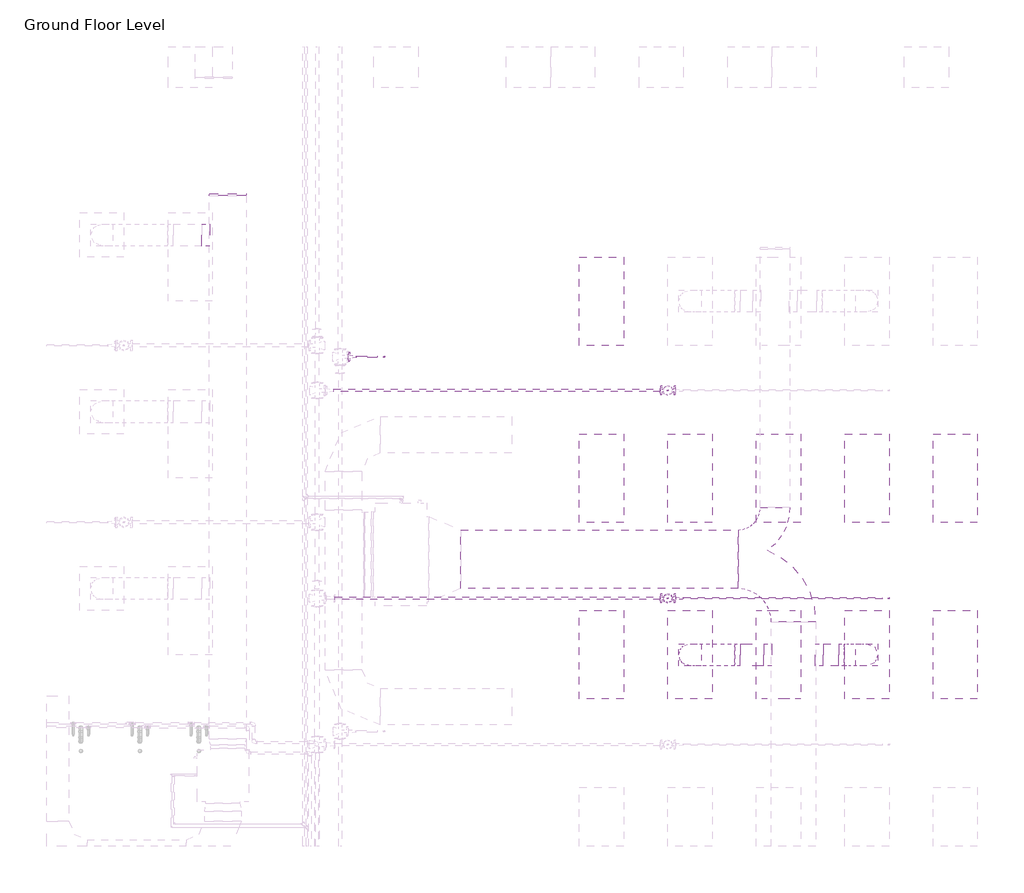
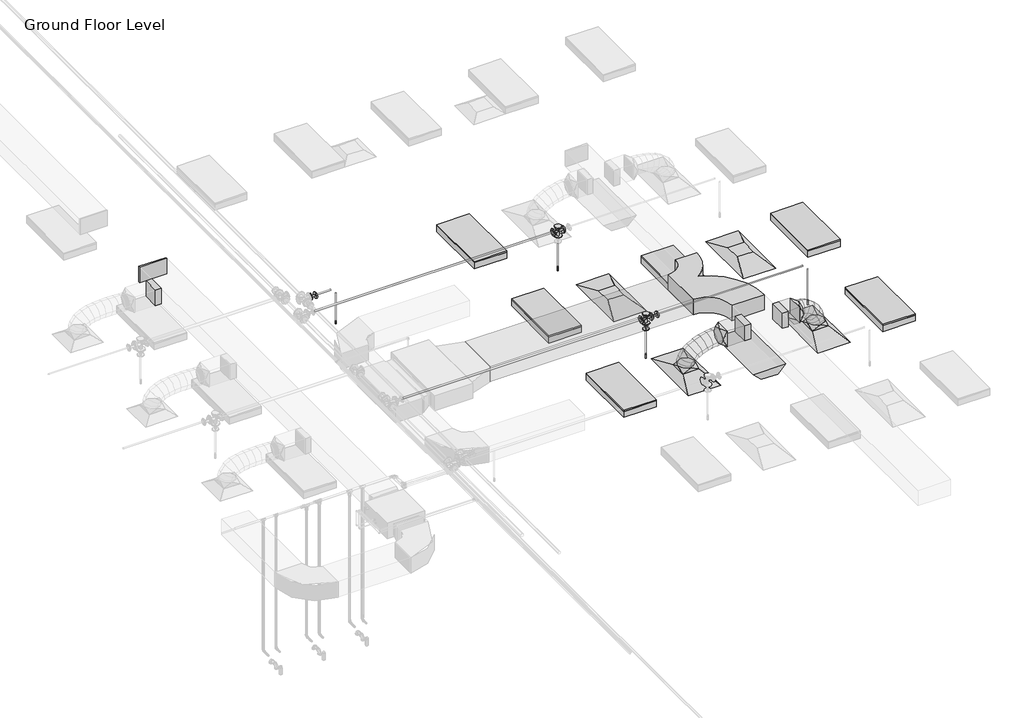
# One storey, part 27 of 74: 9 duct fittings, 8 pipe segments, 7 light fixtures, 5 duct segments, 5 pipe fittings, 4 air terminals, 4 fire suppression terminals.
"""IFC4 building model written with IfcOpenShell, lengths in millimetres."""

from ifc_helpers import new_model, si_unit, point, frame, frame_2d, origin, place, context, project, spatial, polyline, circle_curve, ellipse_curve, trimmed, segment, composite_curve, outline, extrude, transform, mapped, element, save
from ifc_brep_helpers import plane_surface, cylinder_surface, advanced_brep
from components import m_return_diffuser_1200x600_1200_x_600_face_300_x_300_d1983ef6, m_rectangular_endcap_standard_72d4d00d, m_rectangular_takeoff_standard_cb0ccb98, m_rectangular_takeoff_standard_2be5eba1, m_rectangular_wye_curved_transition_standard_4ceeb4da, m_rectangular_to_round_transition_angle_45_degree_641efff0, m_sprinkler_dry_pendent_hosted_15_mm_dry_pendent_9bda8e11, m_sprinkler_pendent_15_mm_pendent_06fcbd8e, m_emergency_recessed_lighting_fixture_600x1200_277_5b10b25d, m_troffer_light_parabolic_rectangular1_0600x1200mm_4_lamp_86473d4a, m_reducer_flanged_cs_class_150_standard_ccf252ad, m_reducer_flanged_cs_class_150_standard_83138b42, m_tee_round_base_flanged_cs_class_150_standard_7e5987a1

model = new_model("IFC4")

# Units and contexts
model_context = context("Model", 3, world=origin())
ifc_project = project(units=[si_unit("LENGTHUNIT", "METRE", prefix="MILLI")], contexts=[model_context])

# Site, building, storey
site = spatial("IfcSite", under=ifc_project)
building = spatial("IfcBuilding", under=site)
storey = spatial("IfcBuildingStorey", under=building, Name="Ground Floor Level", Elevation=900.0)

# Air terminals
placement = place(None, origin())
m_return_diffuser_1200x600_1200_x_600_face_300_x_300_shape = m_return_diffuser_1200x600_1200_x_600_face_300_x_300_d1983ef6(model_context)
element("IfcAirTerminal", 1, ObjectType="M_Return Diffuser 1200x600 : 1200 x 600 Face 300 x 300 Connection", at=placement, inside=storey, context=model_context, shape_type="MappedRepresentation", body=[
    mapped(m_return_diffuser_1200x600_1200_x_600_face_300_x_300_shape, transform((10743.0482736, -20464.7846466, 3650.0), x_axis=(0.0, 1.0, 0.0), y_axis=(-1.0, 0.0, 0.0), z_axis=(0.0, 0.0, 1.0))),
])
element("IfcAirTerminal", 2, ObjectType="M_Return Diffuser 1200x600 : 1200 x 600 Face 300 x 300 Connection", at=placement, inside=storey, context=model_context, shape_type="MappedRepresentation", body=[
    mapped(m_return_diffuser_1200x600_1200_x_600_face_300_x_300_shape, transform((13143.0482736, -20464.7846466, 3650.0), x_axis=(0.0, 1.0, 0.0), y_axis=(-1.0, 0.0, 0.0), z_axis=(0.0, 0.0, 1.0))),
])
element("IfcAirTerminal", 3, ObjectType="M_Supply Diffuser 1200x600 : 1200 x 600 Face 300 x 300 Connection", at=placement, inside=storey, context=model_context, shape_type="MappedRepresentation", body=[
    mapped(m_return_diffuser_1200x600_1200_x_600_face_300_x_300_shape, transform((10743.0482736, -22864.7846466, 3650.0), x_axis=(0.0, 1.0, 0.0), y_axis=(-1.0, 0.0, 0.0), z_axis=(0.0, 0.0, 1.0))),
])
element("IfcAirTerminal", 4, ObjectType="M_Supply Diffuser 1200x600 : 1200 x 600 Face 300 x 300 Connection", at=placement, inside=storey, context=model_context, shape_type="MappedRepresentation", body=[
    mapped(m_return_diffuser_1200x600_1200_x_600_face_300_x_300_shape, transform((13143.0482736, -22864.7846466, 3650.0), x_axis=(0.0, 1.0, 0.0), y_axis=(-1.0, 0.0, 0.0), z_axis=(0.0, 0.0, 1.0))),
])

# Duct fittings
m_rectangular_endcap_standard_shape = m_rectangular_endcap_standard_72d4d00d(model_context)
element("IfcDuctFitting", 5, ObjectType="M_Rectangular Endcap : Standard", at=placement, inside=storey, context=model_context, shape_type="MappedRepresentation", body=[
    mapped(m_rectangular_endcap_standard_shape, transform((4469.1581832, -16631.8627051, 4057.1429453), x_axis=(0.0, 0.999999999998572, -1.6899837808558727e-06), y_axis=(-1.0, 0.0, 0.0), z_axis=(0.0, 1.6899837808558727e-06, 0.999999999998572))),
])
m_rectangular_takeoff_standard_shape = m_rectangular_takeoff_standard_cb0ccb98(model_context)
element("IfcDuctFitting", 6, ObjectType="M_Rectangular Takeoff : Standard", at=placement, inside=storey, context=model_context, shape_type="MappedRepresentation", body=[
    mapped(m_rectangular_takeoff_standard_shape, transform((12447.7826463, -22864.7846466, 4150.0), x_axis=(1.0, 0.0, 0.0), y_axis=(0.0, -1.0, 0.0), z_axis=(0.0, 0.0, -1.0))),
])
element("IfcDuctFitting", 7, ObjectType="M_Rectangular Takeoff : Standard", at=placement, inside=storey, context=model_context, shape_type="MappedRepresentation", body=[
    mapped(m_rectangular_takeoff_standard_shape, transform((4219.1581832, -17164.7846466, 4057.143846), x_axis=(-1.0, 0.0, 0.0), y_axis=(0.0, 1.0, 0.0), z_axis=(0.0, 0.0, -1.0))),
])
m_rectangular_takeoff_standard_2_shape = m_rectangular_takeoff_standard_2be5eba1(model_context)
element("IfcDuctFitting", 8, ObjectType="M_Rectangular Takeoff : Standard", at=placement, inside=storey, context=model_context, shape_type="MappedRepresentation", body=[
    mapped(m_rectangular_takeoff_standard_2_shape, transform((11847.7826463, -22864.7846466, 4150.0), x_axis=(-1.0, 0.0, 0.0), y_axis=(0.0, 1.0, 0.0), z_axis=(0.0, 0.0, -1.0))),
])
m_rectangular_wye_curved_transition_standard_shape = m_rectangular_wye_curved_transition_standard_4ceeb4da(model_context)
element("IfcDuctFitting", 9, ObjectType="M_Rectangular Wye - Curved - Transition : Standard", at=placement, inside=storey, context=model_context, shape_type="MappedRepresentation", body=[
    mapped(m_rectangular_wye_curved_transition_standard_shape, transform((12022.7826463, -21566.5689179, 4150.0003003), x_axis=(0.0, 1.0, 0.0), y_axis=(-0.9999999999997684, 0.0, 6.806625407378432e-07), z_axis=(6.806625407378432e-07, 0.0, 0.9999999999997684))),
])
m_rectangular_to_round_transition_angle_45_degree_shape = m_rectangular_to_round_transition_angle_45_degree_641efff0(model_context)
element("IfcDuctFitting", 10, ObjectType="M_Rectangular to Round Transition - Angle : 45 Degree", at=placement, inside=storey, context=model_context, shape_type="MappedRepresentation", body=[
    mapped(m_rectangular_to_round_transition_angle_45_degree_shape, transform((10743.0482736, -22864.7846466, 3751.6), x_axis=(0.0, 0.0, 1.0), y_axis=(-1.0, 0.0, 0.0), z_axis=(0.0, -1.0, 0.0))),
])
element("IfcDuctFitting", 11, ObjectType="M_Rectangular to Round Transition - Angle : 45 Degree", at=placement, inside=storey, context=model_context, shape_type="MappedRepresentation", body=[
    mapped(m_rectangular_to_round_transition_angle_45_degree_shape, transform((11424.4842049, -22864.7846466, 4150.0), x_axis=(-1.0, 0.0, 0.0), y_axis=(0.0, -1.0, 0.0), z_axis=(0.0, 0.0, 1.0))),
])
element("IfcDuctFitting", 12, ObjectType="M_Rectangular to Round Transition - Angle : 45 Degree", at=placement, inside=storey, context=model_context, shape_type="MappedRepresentation", body=[
    mapped(m_rectangular_to_round_transition_angle_45_degree_shape, transform((13143.0482736, -22864.7846466, 3751.6), x_axis=(0.0, 0.0, 1.0), y_axis=(-1.0, 0.0, 0.0), z_axis=(0.0, -1.0, 0.0))),
])
element("IfcDuctFitting", 13, ObjectType="M_Rectangular to Round Transition - Angle : 45 Degree", at=placement, inside=storey, context=model_context, shape_type="MappedRepresentation", body=[
    mapped(m_rectangular_to_round_transition_angle_45_degree_shape, transform((12761.6125477, -22864.7846466, 4150.0), x_axis=(1.0, 0.0, 0.0), y_axis=(0.0, 1.0, 0.0), z_axis=(0.0, 0.0, 1.0))),
])

# Duct segments
element("IfcDuctSegment", 14, ObjectType="Flex - Round", at=placement, inside=storey, context=model_context, shape_type="AdvancedBrep", body=[
    advanced_brep(
    [(10893.0482736, -22864.7846466, 3826.6), (10743.0482736, -23014.7846466, 3826.6), (10593.0482736, -22864.7846466, 3826.6), (10743.0482736, -22714.7846466, 3826.6), (10893.0482736, -22864.7846466, 3832.4838104), (10743.0482736, -23014.7846466, 3857.3049615), (10593.0482736, -22864.7846466, 3882.1261126), (10743.0482736, -22714.7846466, 3857.3049615), (10895.1777586, -22864.7846466, 3838.7421096), (10759.7096782, -23014.7846466, 3906.2708192), (10624.2415979, -22864.7846466, 3973.7995287), (10759.7096782, -22714.7846466, 3906.2708192), (10917.1997864, -22864.7846466, 3871.1472855), (10805.5876959, -23014.7846466, 3973.7798261), (10693.9756053, -22864.7846466, 4076.4123668), (10805.5876959, -22714.7846466, 3973.7798261), (10957.142511, -22864.7846466, 3903.4915826), (10874.5230324, -23014.7846466, 4029.6013814), (10791.9035539, -22864.7846466, 4155.7111802), (10874.5230324, -22714.7846466, 4029.6013814), (11020.0646936, -22864.7846466, 3936.1928758), (10960.3563938, -23014.7846466, 4074.2098454), (10900.6480941, -22864.7846466, 4212.226815), (10960.3563938, -22714.7846466, 4074.2098454), (11098.9170855, -22864.7846466, 3963.8479616), (11056.9284859, -23014.7846466, 4108.0795788), (11014.9398863, -22864.7846466, 4252.311196), (11056.9284859, -22714.7846466, 4108.0795788), (11185.4890682, -22864.7846466, 3984.0509494), (11158.0800145, -23014.7846466, 4131.684942), (11130.6709609, -22864.7846466, 4279.3189347), (11158.0800145, -22714.7846466, 4131.684942), (11271.9732516, -22864.7846466, 3996.0504424), (11257.6516856, -23014.7846466, 4145.5002956), (11243.3301196, -22864.7846466, 4294.9501488), (11257.6516856, -22714.7846466, 4145.5002956), (11346.1345531, -22864.7846466, 4000.0), (11342.1431577, -23014.7846466, 4150.0), (11338.1517622, -22864.7846466, 4300.0), (11342.1431577, -22714.7846466, 4150.0), (11349.4842049, -22864.7846466, 4000.0), (11349.4842049, -22714.7846466, 4150.0), (11349.4842049, -22864.7846466, 4300.0), (11349.4842049, -23014.7846466, 4150.0)],
    [
        (0, 1, circle_curve(frame((10743.0482736, -22864.7846466, 3826.6), z_axis=(0.0, 0.0, -1.0), x_axis=(1.0, 0.0, 0.0)), 150.0)),
        (1, 2, circle_curve(frame((10743.0482736, -22864.7846466, 3826.6), z_axis=(0.0, 0.0, -1.0), x_axis=(1.0, 0.0, 0.0)), 150.0)),
        (2, 3, circle_curve(frame((10743.0482736, -22864.7846466, 3826.6), z_axis=(0.0, 0.0, -1.0), x_axis=(1.0, 0.0, 0.0)), 150.0)),
        (3, 0, circle_curve(frame((10743.0482736, -22864.7846466, 3826.6), z_axis=(0.0, 0.0, -1.0), x_axis=(1.0, 0.0, 0.0)), 150.0)),
        (0, 4),
        (4, 5, ellipse_curve(frame((10743.0482736, -22864.7846466, 3857.3049615), z_axis=(-0.1632543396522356, 0.0, -0.9865840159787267), x_axis=(0.9865840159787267, 0.0, -0.16325433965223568)), 152.039763, 150.0)),
        (5, 1),
        (5, 6, ellipse_curve(frame((10743.0482736, -22864.7846466, 3857.3049615), z_axis=(-0.1632543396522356, 0.0, -0.9865840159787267), x_axis=(0.9865840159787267, 0.0, -0.16325433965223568)), 152.039763, 150.0)),
        (6, 2),
        (6, 7, ellipse_curve(frame((10743.0482736, -22864.7846466, 3857.3049615), z_axis=(-0.1632543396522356, 0.0, -0.9865840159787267), x_axis=(0.9865840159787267, 0.0, -0.16325433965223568)), 152.039763, 150.0)),
        (7, 3),
        (7, 4, ellipse_curve(frame((10743.0482736, -22864.7846466, 3857.3049615), z_axis=(-0.1632543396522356, 0.0, -0.9865840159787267), x_axis=(0.9865840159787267, 0.0, -0.16325433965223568)), 152.039763, 150.0)),
        (4, 8),
        (8, 9, ellipse_curve(frame((10759.7096782, -22864.7846466, 3906.2708192), z_axis=(-0.4461280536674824, 0.0, -0.8949691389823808), x_axis=(0.8949691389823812, 0.0, -0.44612805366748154)), 151.366203, 150.0)),
        (9, 5),
        (9, 10, ellipse_curve(frame((10759.7096782, -22864.7846466, 3906.2708192), z_axis=(-0.4461280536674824, 0.0, -0.8949691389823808), x_axis=(0.8949691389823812, 0.0, -0.44612805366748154)), 151.366203, 150.0)),
        (10, 6),
        (10, 11, ellipse_curve(frame((10759.7096782, -22864.7846466, 3906.2708192), z_axis=(-0.4461280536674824, 0.0, -0.8949691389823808), x_axis=(0.8949691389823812, 0.0, -0.44612805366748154)), 151.366203, 150.0)),
        (11, 7),
        (11, 8, ellipse_curve(frame((10759.7096782, -22864.7846466, 3906.2708192), z_axis=(-0.4461280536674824, 0.0, -0.8949691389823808), x_axis=(0.8949691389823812, 0.0, -0.44612805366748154)), 151.366203, 150.0)),
        (8, 12),
        (12, 13, ellipse_curve(frame((10805.5876959, -22864.7846466, 3973.7798261), z_axis=(-0.6768758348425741, 0.0, -0.7360972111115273), x_axis=(0.7360972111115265, 0.0, -0.6768758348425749)), 151.6268352, 150.0)),
        (13, 9),
        (13, 14, ellipse_curve(frame((10805.5876959, -22864.7846466, 3973.7798261), z_axis=(-0.6768758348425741, 0.0, -0.7360972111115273), x_axis=(0.7360972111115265, 0.0, -0.6768758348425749)), 151.6268352, 150.0)),
        (14, 10),
        (14, 15, ellipse_curve(frame((10805.5876959, -22864.7846466, 3973.7798261), z_axis=(-0.6768758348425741, 0.0, -0.7360972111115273), x_axis=(0.7360972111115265, 0.0, -0.6768758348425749)), 151.6268352, 150.0)),
        (15, 11),
        (15, 12, ellipse_curve(frame((10805.5876959, -22864.7846466, 3973.7798261), z_axis=(-0.6768758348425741, 0.0, -0.7360972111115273), x_axis=(0.7360972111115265, 0.0, -0.6768758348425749)), 151.6268352, 150.0)),
        (12, 16),
        (16, 17, ellipse_curve(frame((10874.5230324, -22864.7846466, 4029.6013814), z_axis=(-0.8364738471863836, 0.0, -0.5480068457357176), x_axis=(0.5480068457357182, 0.0, -0.8364738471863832)), 150.7635884, 150.0)),
        (17, 13),
        (17, 18, ellipse_curve(frame((10874.5230324, -22864.7846466, 4029.6013814), z_axis=(-0.8364738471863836, 0.0, -0.5480068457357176), x_axis=(0.5480068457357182, 0.0, -0.8364738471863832)), 150.7635884, 150.0)),
        (18, 14),
        (18, 19, ellipse_curve(frame((10874.5230324, -22864.7846466, 4029.6013814), z_axis=(-0.8364738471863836, 0.0, -0.5480068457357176), x_axis=(0.5480068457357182, 0.0, -0.8364738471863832)), 150.7635884, 150.0)),
        (19, 15),
        (19, 16, ellipse_curve(frame((10874.5230324, -22864.7846466, 4029.6013814), z_axis=(-0.8364738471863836, 0.0, -0.5480068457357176), x_axis=(0.5480068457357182, 0.0, -0.8364738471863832)), 150.7635884, 150.0)),
        (16, 20),
        (20, 21, ellipse_curve(frame((10960.3563938, -22864.7846466, 4074.2098454), z_axis=(-0.9177957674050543, 0.0, -0.3970528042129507), x_axis=(0.3970528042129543, 0.0, -0.9177957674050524)), 150.3787384, 150.0)),
        (21, 17),
        (21, 22, ellipse_curve(frame((10960.3563938, -22864.7846466, 4074.2098454), z_axis=(-0.9177957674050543, 0.0, -0.3970528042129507), x_axis=(0.3970528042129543, 0.0, -0.9177957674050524)), 150.3787384, 150.0)),
        (22, 18),
        (22, 23, ellipse_curve(frame((10960.3563938, -22864.7846466, 4074.2098454), z_axis=(-0.9177957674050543, 0.0, -0.3970528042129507), x_axis=(0.3970528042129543, 0.0, -0.9177957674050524)), 150.3787384, 150.0)),
        (23, 19),
        (23, 20, ellipse_curve(frame((10960.3563938, -22864.7846466, 4074.2098454), z_axis=(-0.9177957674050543, 0.0, -0.3970528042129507), x_axis=(0.3970528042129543, 0.0, -0.9177957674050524)), 150.3787384, 150.0)),
        (20, 24),
        (24, 25, ellipse_curve(frame((11056.9284859, -22864.7846466, 4108.0795788), z_axis=(-0.9601411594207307, 0.0, -0.27951557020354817), x_axis=(0.2795155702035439, 0.0, -0.9601411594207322)), 150.2191795, 150.0)),
        (25, 21),
        (25, 26, ellipse_curve(frame((11056.9284859, -22864.7846466, 4108.0795788), z_axis=(-0.9601411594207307, 0.0, -0.27951557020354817), x_axis=(0.2795155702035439, 0.0, -0.9601411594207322)), 150.2191795, 150.0)),
        (26, 22),
        (26, 27, ellipse_curve(frame((11056.9284859, -22864.7846466, 4108.0795788), z_axis=(-0.9601411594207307, 0.0, -0.27951557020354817), x_axis=(0.2795155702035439, 0.0, -0.9601411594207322)), 150.2191795, 150.0)),
        (27, 23),
        (27, 24, ellipse_curve(frame((11056.9284859, -22864.7846466, 4108.0795788), z_axis=(-0.9601411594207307, 0.0, -0.27951557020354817), x_axis=(0.2795155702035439, 0.0, -0.9601411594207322)), 150.2191795, 150.0)),
        (24, 28),
        (28, 29, ellipse_curve(frame((11158.0800145, -22864.7846466, 4131.684942), z_axis=(-0.9831991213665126, 0.0, -0.1825362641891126), x_axis=(0.18253626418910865, 0.0, -0.9831991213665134)), 150.1567581, 150.0)),
        (29, 25),
        (29, 30, ellipse_curve(frame((11158.0800145, -22864.7846466, 4131.684942), z_axis=(-0.9831991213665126, 0.0, -0.1825362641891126), x_axis=(0.18253626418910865, 0.0, -0.9831991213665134)), 150.1567581, 150.0)),
        (30, 26),
        (30, 31, ellipse_curve(frame((11158.0800145, -22864.7846466, 4131.684942), z_axis=(-0.9831991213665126, 0.0, -0.1825362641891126), x_axis=(0.18253626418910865, 0.0, -0.9831991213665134)), 150.1567581, 150.0)),
        (31, 27),
        (31, 28, ellipse_curve(frame((11158.0800145, -22864.7846466, 4131.684942), z_axis=(-0.9831991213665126, 0.0, -0.1825362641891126), x_axis=(0.18253626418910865, 0.0, -0.9831991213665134)), 150.1567581, 150.0)),
        (28, 32),
        (32, 33, ellipse_curve(frame((11257.6516856, -22864.7846466, 4145.5002956), z_axis=(-0.9954398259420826, 0.0, -0.09539157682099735), x_axis=(0.09539157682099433, 0.0, -0.9954398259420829)), 150.1344926, 150.0)),
        (33, 29),
        (33, 34, ellipse_curve(frame((11257.6516856, -22864.7846466, 4145.5002956), z_axis=(-0.9954398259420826, 0.0, -0.09539157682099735), x_axis=(0.09539157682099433, 0.0, -0.9954398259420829)), 150.1344926, 150.0)),
        (34, 30),
        (34, 35, ellipse_curve(frame((11257.6516856, -22864.7846466, 4145.5002956), z_axis=(-0.9954398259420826, 0.0, -0.09539157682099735), x_axis=(0.09539157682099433, 0.0, -0.9954398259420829)), 150.1344926, 150.0)),
        (35, 31),
        (35, 32, ellipse_curve(frame((11257.6516856, -22864.7846466, 4145.5002956), z_axis=(-0.9954398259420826, 0.0, -0.09539157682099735), x_axis=(0.09539157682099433, 0.0, -0.9954398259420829)), 150.1344926, 150.0)),
        (32, 36),
        (36, 37, ellipse_curve(frame((11342.1431577, -22864.7846466, 4150.0), z_axis=(-0.9996461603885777, 0.0, -0.02659988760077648), x_axis=(0.026599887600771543, 0.0, -0.9996461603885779)), 150.0530947, 150.0)),
        (37, 33),
        (37, 38, ellipse_curve(frame((11342.1431577, -22864.7846466, 4150.0), z_axis=(-0.9996461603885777, 0.0, -0.02659988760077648), x_axis=(0.026599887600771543, 0.0, -0.9996461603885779)), 150.0530947, 150.0)),
        (38, 34),
        (38, 39, ellipse_curve(frame((11342.1431577, -22864.7846466, 4150.0), z_axis=(-0.9996461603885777, 0.0, -0.02659988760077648), x_axis=(0.026599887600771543, 0.0, -0.9996461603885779)), 150.0530947, 150.0)),
        (39, 35),
        (39, 36, ellipse_curve(frame((11342.1431577, -22864.7846466, 4150.0), z_axis=(-0.9996461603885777, 0.0, -0.02659988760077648), x_axis=(0.026599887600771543, 0.0, -0.9996461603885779)), 150.0530947, 150.0)),
        (40, 41, circle_curve(frame((11349.4842049, -22864.7846466, 4150.0), z_axis=(1.0, 0.0, 0.0), x_axis=(0.0, 0.0, -1.0)), 150.0)),
        (41, 42, circle_curve(frame((11349.4842049, -22864.7846466, 4150.0), z_axis=(1.0, 0.0, 0.0), x_axis=(0.0, 0.0, -1.0)), 150.0)),
        (42, 43, circle_curve(frame((11349.4842049, -22864.7846466, 4150.0), z_axis=(1.0, 0.0, 0.0), x_axis=(0.0, 0.0, -1.0)), 150.0)),
        (43, 40, circle_curve(frame((11349.4842049, -22864.7846466, 4150.0), z_axis=(1.0, 0.0, 0.0), x_axis=(0.0, 0.0, -1.0)), 150.0)),
        (36, 40),
        (43, 37),
        (42, 38),
        (41, 39),
    ],
    [
        plane_surface(frame((10743.0482736, -23014.7846466, 3826.6), z_axis=(0.0, 0.0, -1.0), x_axis=(1.0, 0.0, 0.0))),
        cylinder_surface(frame((10743.0482736, -22864.7846466, 3826.6), z_axis=(0.0, 0.0, -1.0), x_axis=(1.0, 0.0, 0.0)), 150.0),
        cylinder_surface(frame((10743.0482736, -22864.7846466, 3857.3049615), z_axis=(-0.32212824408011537, 0.0, -0.946696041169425), x_axis=(0.946696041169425, 0.0, -0.32212824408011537)), 150.0),
        cylinder_surface(frame((10759.7096782, -22864.7846466, 3906.2708192), z_axis=(-0.5620745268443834, 0.0, -0.827086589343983), x_axis=(0.827086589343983, 0.0, -0.5620745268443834)), 150.0),
        cylinder_surface(frame((10805.5876959, -22864.7846466, 3973.7798261), z_axis=(-0.7771524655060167, 0.0, -0.6293123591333), x_axis=(0.6293123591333, 0.0, -0.7771524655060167)), 150.0),
        cylinder_surface(frame((10874.5230324, -22864.7846466, 4029.6013814), z_axis=(-0.8873220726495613, 0.0, -0.4611502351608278), x_axis=(0.4611502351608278, 0.0, -0.8873220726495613)), 150.0),
        cylinder_surface(frame((10960.3563938, -22864.7846466, 4074.2098454), z_axis=(-0.9436464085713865, 0.0, -0.33095536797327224), x_axis=(0.33095536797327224, 0.0, -0.9436464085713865)), 150.0),
        cylinder_surface(frame((11056.9284859, -22864.7846466, 4108.0795788), z_axis=(-0.9738340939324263, 0.0, -0.22726010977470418), x_axis=(0.22726010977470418, 0.0, -0.9738340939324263)), 150.0),
        cylinder_surface(frame((11158.0800145, -22864.7846466, 4131.684942), z_axis=(-0.9905113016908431, 0.0, -0.13743129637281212), x_axis=(0.13743129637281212, 0.0, -0.9905113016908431)), 150.0),
        cylinder_surface(frame((11257.6516856, -22864.7846466, 4145.5002956), z_axis=(-0.9985848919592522, 0.0, -0.05318095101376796), x_axis=(0.05318095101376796, 0.0, -0.9985848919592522)), 150.0),
        plane_surface(frame((11349.4842049, -22864.7846466, 4000.0), z_axis=(1.0, 0.0, 0.0), x_axis=(0.0, 1.0, 0.0))),
        cylinder_surface(frame((11342.1431577, -22864.7846466, 4150.0), z_axis=(-1.0, 0.0, 0.0), x_axis=(0.0, 0.0, -1.0)), 150.0),
    ],
    [
        (0, [[1, 2, 3, 4]]),
        (1, [[-1, 5, 6, 7]]),
        (1, [[-2, -7, 8, 9]]),
        (1, [[-3, -9, 10, 11]]),
        (1, [[-4, -11, 12, -5]]),
        (2, [[-6, 13, 14, 15]]),
        (2, [[-8, -15, 16, 17]]),
        (2, [[-10, -17, 18, 19]]),
        (2, [[-12, -19, 20, -13]]),
        (3, [[-14, 21, 22, 23]]),
        (3, [[-16, -23, 24, 25]]),
        (3, [[-18, -25, 26, 27]]),
        (3, [[-20, -27, 28, -21]]),
        (4, [[-22, 29, 30, 31]]),
        (4, [[-24, -31, 32, 33]]),
        (4, [[-26, -33, 34, 35]]),
        (4, [[-28, -35, 36, -29]]),
        (5, [[-30, 37, 38, 39]]),
        (5, [[-32, -39, 40, 41]]),
        (5, [[-34, -41, 42, 43]]),
        (5, [[-36, -43, 44, -37]]),
        (6, [[-38, 45, 46, 47]]),
        (6, [[-40, -47, 48, 49]]),
        (6, [[-42, -49, 50, 51]]),
        (6, [[-44, -51, 52, -45]]),
        (7, [[-46, 53, 54, 55]]),
        (7, [[-48, -55, 56, 57]]),
        (7, [[-50, -57, 58, 59]]),
        (7, [[-52, -59, 60, -53]]),
        (8, [[-54, 61, 62, 63]]),
        (8, [[-56, -63, 64, 65]]),
        (8, [[-58, -65, 66, 67]]),
        (8, [[-60, -67, 68, -61]]),
        (9, [[-62, 69, 70, 71]]),
        (9, [[-64, -71, 72, 73]]),
        (9, [[-66, -73, 74, 75]]),
        (9, [[-68, -75, 76, -69]]),
        (10, [[77, 78, 79, 80]]),
        (11, [[-70, 81, -80, 82]]),
        (11, [[-72, -82, -79, 83]]),
        (11, [[-74, -83, -78, 84]]),
        (11, [[-76, -84, -77, -81]]),
    ],
),
])
element("IfcDuctSegment", 15, ObjectType="Flex - Round", at=placement, inside=storey, context=model_context, shape_type="AdvancedBrep", body=[
    advanced_brep(
    [(13293.0482736, -22864.7846466, 3826.6), (13143.0482736, -23014.7846466, 3826.6), (12993.0482736, -22864.7846466, 3826.6), (13143.0482736, -22714.7846466, 3826.6), (13293.0482736, -22864.7846466, 3876.0801412), (13143.0482736, -23014.7846466, 3855.2056612), (12993.0482736, -22864.7846466, 3834.3311813), (13143.0482736, -22714.7846466, 3855.2056612), (13265.1827485, -22864.7846466, 3974.2593667), (13125.4356823, -23014.7846466, 3917.2604967), (12985.6886161, -22864.7846466, 3860.2616267), (13125.4356823, -22714.7846466, 3917.2604967), (13200.641408, -22864.7846466, 4092.9658971), (13077.9530706, -23014.7846466, 4004.5920588), (12955.2647333, -22864.7846466, 3916.2182204), (13077.9530706, -22714.7846466, 4004.5920588), (13104.7566275, -22864.7846466, 4195.7964222), (13008.633182, -23014.7846466, 4078.9333725), (12912.5097364, -22864.7846466, 3962.0703229), (13008.633182, -22714.7846466, 4078.9333725), (12990.1102871, -22864.7846466, 4267.0876349), (12925.5087598, -23014.7846466, 4130.6231242), (12860.9072326, -22864.7846466, 3994.1586134), (12925.5087598, -22714.7846466, 4130.6231242), (12893.3776503, -22864.7846466, 4300.0), (12868.5582402, -23014.7846466, 4150.0), (12843.7388301, -22864.7846466, 4000.0), (12868.5582402, -22714.7846466, 4150.0), (12836.6125477, -22864.7846466, 4300.0), (12836.6125477, -23014.7846466, 4150.0), (12836.6125477, -22864.7846466, 4000.0), (12836.6125477, -22714.7846466, 4150.0)],
    [
        (0, 1, circle_curve(frame((13143.0482736, -22864.7846466, 3826.6), z_axis=(0.0, 0.0, -1.0), x_axis=(1.0, 0.0, 0.0)), 150.0)),
        (1, 2, circle_curve(frame((13143.0482736, -22864.7846466, 3826.6), z_axis=(0.0, 0.0, -1.0), x_axis=(1.0, 0.0, 0.0)), 150.0)),
        (2, 3, circle_curve(frame((13143.0482736, -22864.7846466, 3826.6), z_axis=(0.0, 0.0, -1.0), x_axis=(1.0, 0.0, 0.0)), 150.0)),
        (3, 0, circle_curve(frame((13143.0482736, -22864.7846466, 3826.6), z_axis=(0.0, 0.0, -1.0), x_axis=(1.0, 0.0, 0.0)), 150.0)),
        (0, 4),
        (4, 5, ellipse_curve(frame((13143.0482736, -22864.7846466, 3855.2056612), z_axis=(0.13783491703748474, 0.0, -0.9904552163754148), x_axis=(-0.9904552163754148, 0.0, -0.13783491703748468)), 151.4455147, 150.0)),
        (5, 1),
        (5, 6, ellipse_curve(frame((13143.0482736, -22864.7846466, 3855.2056612), z_axis=(0.13783491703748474, 0.0, -0.9904552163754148), x_axis=(-0.9904552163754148, 0.0, -0.13783491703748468)), 151.4455147, 150.0)),
        (6, 2),
        (6, 7, ellipse_curve(frame((13143.0482736, -22864.7846466, 3855.2056612), z_axis=(0.13783491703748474, 0.0, -0.9904552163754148), x_axis=(-0.9904552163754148, 0.0, -0.13783491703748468)), 151.4455147, 150.0)),
        (7, 3),
        (7, 4, ellipse_curve(frame((13143.0482736, -22864.7846466, 3855.2056612), z_axis=(0.13783491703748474, 0.0, -0.9904552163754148), x_axis=(-0.9904552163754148, 0.0, -0.13783491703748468)), 151.4455147, 150.0)),
        (4, 8),
        (8, 9, ellipse_curve(frame((13125.4356823, -22864.7846466, 3917.2604967), z_axis=(0.3776655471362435, 0.0, -0.9259420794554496), x_axis=(-0.9259420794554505, 0.0, -0.3776655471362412)), 150.9241985, 150.0)),
        (9, 5),
        (9, 10, ellipse_curve(frame((13125.4356823, -22864.7846466, 3917.2604967), z_axis=(0.3776655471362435, 0.0, -0.9259420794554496), x_axis=(-0.9259420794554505, 0.0, -0.3776655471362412)), 150.9241985, 150.0)),
        (10, 6),
        (10, 11, ellipse_curve(frame((13125.4356823, -22864.7846466, 3917.2604967), z_axis=(0.3776655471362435, 0.0, -0.9259420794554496), x_axis=(-0.9259420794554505, 0.0, -0.3776655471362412)), 150.9241985, 150.0)),
        (11, 7),
        (11, 8, ellipse_curve(frame((13125.4356823, -22864.7846466, 3917.2604967), z_axis=(0.3776655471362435, 0.0, -0.9259420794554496), x_axis=(-0.9259420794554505, 0.0, -0.3776655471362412)), 150.9241985, 150.0)),
        (8, 12),
        (12, 13, ellipse_curve(frame((13077.9530706, -22864.7846466, 4004.5920588), z_axis=(0.5844712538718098, 0.0, -0.8114144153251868), x_axis=(-0.8114144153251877, 0.0, -0.5844712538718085)), 151.2030536, 150.0)),
        (13, 9),
        (13, 14, ellipse_curve(frame((13077.9530706, -22864.7846466, 4004.5920588), z_axis=(0.5844712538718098, 0.0, -0.8114144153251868), x_axis=(-0.8114144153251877, 0.0, -0.5844712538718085)), 151.2030536, 150.0)),
        (14, 10),
        (14, 15, ellipse_curve(frame((13077.9530706, -22864.7846466, 4004.5920588), z_axis=(0.5844712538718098, 0.0, -0.8114144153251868), x_axis=(-0.8114144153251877, 0.0, -0.5844712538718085)), 151.2030536, 150.0)),
        (15, 11),
        (15, 12, ellipse_curve(frame((13077.9530706, -22864.7846466, 4004.5920588), z_axis=(0.5844712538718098, 0.0, -0.8114144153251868), x_axis=(-0.8114144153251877, 0.0, -0.5844712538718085)), 151.2030536, 150.0)),
        (12, 16),
        (16, 17, ellipse_curve(frame((13008.633182, -22864.7846466, 4078.9333725), z_axis=(0.7723086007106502, 0.0, -0.6352475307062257), x_axis=(-0.6352475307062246, 0.0, -0.7723086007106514)), 151.3165198, 150.0)),
        (17, 13),
        (17, 18, ellipse_curve(frame((13008.633182, -22864.7846466, 4078.9333725), z_axis=(0.7723086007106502, 0.0, -0.6352475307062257), x_axis=(-0.6352475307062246, 0.0, -0.7723086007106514)), 151.3165198, 150.0)),
        (18, 14),
        (18, 19, ellipse_curve(frame((13008.633182, -22864.7846466, 4078.9333725), z_axis=(0.7723086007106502, 0.0, -0.6352475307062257), x_axis=(-0.6352475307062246, 0.0, -0.7723086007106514)), 151.3165198, 150.0)),
        (19, 15),
        (19, 16, ellipse_curve(frame((13008.633182, -22864.7846466, 4078.9333725), z_axis=(0.7723086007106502, 0.0, -0.6352475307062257), x_axis=(-0.6352475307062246, 0.0, -0.7723086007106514)), 151.3165198, 150.0)),
        (16, 20),
        (20, 21, ellipse_curve(frame((12925.5087598, -22864.7846466, 4130.6231242), z_axis=(0.9038391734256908, 0.0, -0.4278723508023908), x_axis=(-0.4278723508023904, 0.0, -0.903839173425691)), 150.983178, 150.0)),
        (21, 17),
        (21, 22, ellipse_curve(frame((12925.5087598, -22864.7846466, 4130.6231242), z_axis=(0.9038391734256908, 0.0, -0.4278723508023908), x_axis=(-0.4278723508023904, 0.0, -0.903839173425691)), 150.983178, 150.0)),
        (22, 18),
        (22, 23, ellipse_curve(frame((12925.5087598, -22864.7846466, 4130.6231242), z_axis=(0.9038391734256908, 0.0, -0.4278723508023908), x_axis=(-0.4278723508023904, 0.0, -0.903839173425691)), 150.983178, 150.0)),
        (23, 19),
        (23, 20, ellipse_curve(frame((12925.5087598, -22864.7846466, 4130.6231242), z_axis=(0.9038391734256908, 0.0, -0.4278723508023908), x_axis=(-0.4278723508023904, 0.0, -0.903839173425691)), 150.983178, 150.0)),
        (20, 24),
        (24, 25, ellipse_curve(frame((12868.5582402, -22864.7846466, 4150.0), z_axis=(0.9865858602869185, 0.0, -0.16324319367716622), x_axis=(-0.16324319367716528, 0.0, -0.9865858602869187)), 152.0394788, 150.0)),
        (25, 21),
        (25, 26, ellipse_curve(frame((12868.5582402, -22864.7846466, 4150.0), z_axis=(0.9865858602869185, 0.0, -0.16324319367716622), x_axis=(-0.16324319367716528, 0.0, -0.9865858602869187)), 152.0394788, 150.0)),
        (26, 22),
        (26, 27, ellipse_curve(frame((12868.5582402, -22864.7846466, 4150.0), z_axis=(0.9865858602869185, 0.0, -0.16324319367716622), x_axis=(-0.16324319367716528, 0.0, -0.9865858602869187)), 152.0394788, 150.0)),
        (27, 23),
        (27, 24, ellipse_curve(frame((12868.5582402, -22864.7846466, 4150.0), z_axis=(0.9865858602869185, 0.0, -0.16324319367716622), x_axis=(-0.16324319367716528, 0.0, -0.9865858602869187)), 152.0394788, 150.0)),
        (24, 28),
        (28, 29, circle_curve(frame((12836.6125477, -22864.7846466, 4150.0), z_axis=(1.0, 0.0, 0.0), x_axis=(0.0, 0.0, 1.0)), 150.0)),
        (29, 25),
        (29, 30, circle_curve(frame((12836.6125477, -22864.7846466, 4150.0), z_axis=(1.0, 0.0, 0.0), x_axis=(0.0, 0.0, 1.0)), 150.0)),
        (30, 26),
        (30, 31, circle_curve(frame((12836.6125477, -22864.7846466, 4150.0), z_axis=(1.0, 0.0, 0.0), x_axis=(0.0, 0.0, 1.0)), 150.0)),
        (31, 27),
        (31, 28, circle_curve(frame((12836.6125477, -22864.7846466, 4150.0), z_axis=(1.0, 0.0, 0.0), x_axis=(0.0, 0.0, 1.0)), 150.0)),
    ],
    [
        plane_surface(frame((13143.0482736, -23014.7846466, 3826.6), z_axis=(0.0, 0.0, -1.0), x_axis=(1.0, 0.0, 0.0))),
        cylinder_surface(frame((13143.0482736, -22864.7846466, 3826.6), z_axis=(0.0, 0.0, -1.0), x_axis=(1.0, 0.0, 0.0)), 150.0),
        cylinder_surface(frame((13143.0482736, -22864.7846466, 3855.2056612), z_axis=(0.2730386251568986, 0.0, -0.9620030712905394), x_axis=(0.9620030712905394, 0.0, 0.2730386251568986)), 150.0),
        cylinder_surface(frame((13125.4356823, -22864.7846466, 3917.2604967), z_axis=(0.4776671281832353, 0.0, -0.8785409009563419), x_axis=(0.8785409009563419, 0.0, 0.4776671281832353)), 150.0),
        cylinder_surface(frame((13077.9530706, -22864.7846466, 4004.5920588), z_axis=(0.6819746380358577, 0.0, -0.73137582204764), x_axis=(0.73137582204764, 0.0, 0.6819746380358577)), 150.0),
        cylinder_surface(frame((13008.633182, -22864.7846466, 4078.9333725), z_axis=(0.8492037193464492, 0.0, -0.5280653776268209), x_axis=(0.5280653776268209, 0.0, 0.8492037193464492)), 150.0),
        cylinder_surface(frame((12925.5087598, -22864.7846466, 4130.6231242), z_axis=(0.9467033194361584, 0.0, -0.3221068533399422), x_axis=(0.3221068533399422, 0.0, 0.9467033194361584)), 150.0),
        cylinder_surface(frame((12868.5582402, -22864.7846466, 4150.0), z_axis=(1.0, 0.0, 0.0), x_axis=(0.0, 0.0, 1.0)), 150.0),
        plane_surface(frame((12836.6125477, -22864.7846466, 4000.0), z_axis=(-1.0, 0.0, 0.0), x_axis=(0.0, -1.0, 0.0))),
    ],
    [
        (0, [[1, 2, 3, 4]]),
        (1, [[-1, 5, 6, 7]]),
        (1, [[-2, -7, 8, 9]]),
        (1, [[-3, -9, 10, 11]]),
        (1, [[-4, -11, 12, -5]]),
        (2, [[-6, 13, 14, 15]]),
        (2, [[-8, -15, 16, 17]]),
        (2, [[-10, -17, 18, 19]]),
        (2, [[-12, -19, 20, -13]]),
        (3, [[-14, 21, 22, 23]]),
        (3, [[-16, -23, 24, 25]]),
        (3, [[-18, -25, 26, 27]]),
        (3, [[-20, -27, 28, -21]]),
        (4, [[-22, 29, 30, 31]]),
        (4, [[-24, -31, 32, 33]]),
        (4, [[-26, -33, 34, 35]]),
        (4, [[-28, -35, 36, -29]]),
        (5, [[-30, 37, 38, 39]]),
        (5, [[-32, -39, 40, 41]]),
        (5, [[-34, -41, 42, 43]]),
        (5, [[-36, -43, 44, -37]]),
        (6, [[-38, 45, 46, 47]]),
        (6, [[-40, -47, 48, 49]]),
        (6, [[-42, -49, 50, 51]]),
        (6, [[-44, -51, 52, -45]]),
        (7, [[-46, 53, 54, 55]]),
        (7, [[-48, -55, 56, 57]]),
        (7, [[-50, -57, 58, 59]]),
        (7, [[-52, -59, 60, -53]]),
        (8, [[-60, -58, -56, -54]]),
    ],
),
])
element("IfcDuctSegment", 16, ObjectType="Radius Elbows / Taps", at=placement, inside=storey, context=model_context, shape_type="SweptSolid", body=[
    extrude(outline(polyline([(7632.7177312, -21966.5689179), (7632.7177312, -21166.5689179), (11394.6076463, -21166.5689179), (11394.6076463, -21966.5689179), (7632.7177312, -21966.5689179)])), frame((0.0, 0.0, 4000.0007279), z_axis=(0.0, 0.0, 1.0), x_axis=(1.0, 0.0, 0.0)), (0.0, 0.0, 1.0), 300.0),
])
element("IfcDuctSegment", 17, ObjectType="Radius Elbows / Taps", at=placement, inside=storey, context=model_context, shape_type="SweptSolid", body=[
    extrude(outline(polyline([(11746.1826463, -22714.7846466), (11746.1826463, -23014.7846466), (11424.4842049, -23014.7846466), (11424.4842049, -22714.7846466), (11746.1826463, -22714.7846466)])), frame((0.0, 0.0, 4000.0), z_axis=(0.0, 0.0, 1.0), x_axis=(1.0, 0.0, 0.0)), (0.0, 0.0, 1.0), 300.0),
])
element("IfcDuctSegment", 18, ObjectType="Radius Elbows / Taps", at=placement, inside=storey, context=model_context, shape_type="SweptSolid", body=[
    extrude(outline(polyline([(12549.3826463, -23014.7846466), (12549.3826463, -22714.7846466), (12761.6125477, -22714.7846466), (12761.6125477, -23014.7846466), (12549.3826463, -23014.7846466)])), frame((0.0, 0.0, 4000.0), z_axis=(0.0, 0.0, 1.0), x_axis=(1.0, 0.0, 0.0)), (0.0, 0.0, 1.0), 300.0),
])

# Fire suppression terminals
m_sprinkler_dry_pendent_hosted_15_mm_dry_pendent_shape = m_sprinkler_dry_pendent_hosted_15_mm_dry_pendent_9bda8e11(model_context)
element("IfcFireSuppressionTerminal", 19, ObjectType="M_Sprinkler - Dry - Pendent - Hosted : 15 mm Dry Pendent", at=placement, inside=storey, context=model_context, shape_type="MappedRepresentation", body=[
    mapped(m_sprinkler_dry_pendent_hosted_15_mm_dry_pendent_shape, transform((10443.0482736, -19275.8856124, 3650.0), x_axis=(1.0, 0.0, 0.0), y_axis=(0.0, -1.0, 0.0), z_axis=(0.0, 0.0, -1.0))),
])
element("IfcFireSuppressionTerminal", 20, ObjectType="M_Sprinkler - Dry - Pendent - Hosted : 15 mm Dry Pendent", at=placement, inside=storey, context=model_context, shape_type="MappedRepresentation", body=[
    mapped(m_sprinkler_dry_pendent_hosted_15_mm_dry_pendent_shape, transform((10443.0482736, -22098.0287346, 3650.0), x_axis=(1.0, 0.0, 0.0), y_axis=(0.0, -1.0, 0.0), z_axis=(0.0, 0.0, -1.0))),
])
element("IfcFireSuppressionTerminal", 21, ObjectType="M_Sprinkler - Dry - Pendent - Hosted : 15 mm Dry Pendent", at=placement, inside=storey, context=model_context, shape_type="MappedRepresentation", body=[
    mapped(m_sprinkler_dry_pendent_hosted_15_mm_dry_pendent_shape, transform((13443.0482736, -22098.0287346, 3650.0), x_axis=(1.0, 0.0, 0.0), y_axis=(0.0, -1.0, 0.0), z_axis=(0.0, 0.0, -1.0))),
])
m_sprinkler_pendent_15_mm_pendent_shape = m_sprinkler_pendent_15_mm_pendent_06fcbd8e(model_context)
element("IfcFireSuppressionTerminal", 22, ObjectType="M_Sprinkler - Pendent : 15 mm Pendent", at=placement, inside=storey, context=model_context, shape_type="MappedRepresentation", body=[
    mapped(m_sprinkler_pendent_15_mm_pendent_shape, transform((6592.5481019, -18818.869914, 3650.0), x_axis=(1.0, 0.0, 0.0), y_axis=(0.0, 1.0, 0.0), z_axis=(0.0, 0.0, 1.0))),
])

# Light fixtures
m_emergency_recessed_lighting_fixture_600x1200_277_shape = m_emergency_recessed_lighting_fixture_600x1200_277_5b10b25d(model_context)
element("IfcLightFixture", 23, ObjectType="M_Emergency Recessed Lighting Fixture : 600x1200 - 277", at=placement, inside=storey, context=model_context, shape_type="MappedRepresentation", body=[
    mapped(m_emergency_recessed_lighting_fixture_600x1200_277_shape, transform((11643.0482736, -23464.7846466, 3650.0), x_axis=(0.0, 1.0, 0.0), y_axis=(-1.0, 0.0, 0.0), z_axis=(0.0, 0.0, 1.0))),
])
m_troffer_light_parabolic_rectangular1_0600x1200mm_4_lamp_shape = m_troffer_light_parabolic_rectangular1_0600x1200mm_4_lamp_86473d4a(model_context)
element("IfcLightFixture", 24, ObjectType="M_Troffer Light - Parabolic Rectangular1 : 0600x1200mm(4 Lamp) - 277V 2", at=placement, inside=storey, context=model_context, shape_type="MappedRepresentation", body=[
    mapped(m_troffer_light_parabolic_rectangular1_0600x1200mm_4_lamp_shape, transform((9483.5823415, -18046.081145, 3650.0), x_axis=(0.0, 1.0, 0.0), y_axis=(-1.0, 0.0, 0.0), z_axis=(0.0, 0.0, 1.0))),
])
element("IfcLightFixture", 25, ObjectType="M_Troffer Light - Parabolic Rectangular1 : 0600x1200mm(4 Lamp) - 277V 2", at=placement, inside=storey, context=model_context, shape_type="MappedRepresentation", body=[
    mapped(m_troffer_light_parabolic_rectangular1_0600x1200mm_4_lamp_shape, transform((9483.5823415, -20446.081145, 3650.0), x_axis=(0.0, 1.0, 0.0), y_axis=(-1.0, 0.0, 0.0), z_axis=(0.0, 0.0, 1.0))),
])
element("IfcLightFixture", 26, ObjectType="M_Troffer Light - Parabolic Rectangular1 : 0600x1200mm(4 Lamp) - 277V 2", at=placement, inside=storey, context=model_context, shape_type="MappedRepresentation", body=[
    mapped(m_troffer_light_parabolic_rectangular1_0600x1200mm_4_lamp_shape, transform((11883.5823415, -20446.081145, 3650.0), x_axis=(0.0, 1.0, 0.0), y_axis=(-1.0, 0.0, 0.0), z_axis=(0.0, 0.0, 1.0))),
])
element("IfcLightFixture", 27, ObjectType="M_Troffer Light - Parabolic Rectangular1 : 0600x1200mm(4 Lamp) - 277V 2", at=placement, inside=storey, context=model_context, shape_type="MappedRepresentation", body=[
    mapped(m_troffer_light_parabolic_rectangular1_0600x1200mm_4_lamp_shape, transform((14283.5823415, -20446.081145, 3650.0), x_axis=(0.0, 1.0, 0.0), y_axis=(-1.0, 0.0, 0.0), z_axis=(0.0, 0.0, 1.0))),
])
element("IfcLightFixture", 28, ObjectType="M_Troffer Light - Parabolic Rectangular1 : 0600x1200mm(4 Lamp) - 277V 2", at=placement, inside=storey, context=model_context, shape_type="MappedRepresentation", body=[
    mapped(m_troffer_light_parabolic_rectangular1_0600x1200mm_4_lamp_shape, transform((9483.5823415, -22846.081145, 3650.0), x_axis=(0.0, 1.0, 0.0), y_axis=(-1.0, 0.0, 0.0), z_axis=(0.0, 0.0, 1.0))),
])
element("IfcLightFixture", 29, ObjectType="M_Troffer Light - Parabolic Rectangular1 : 0600x1200mm(4 Lamp) - 277V 2", at=placement, inside=storey, context=model_context, shape_type="MappedRepresentation", body=[
    mapped(m_troffer_light_parabolic_rectangular1_0600x1200mm_4_lamp_shape, transform((14283.5823415, -22846.081145, 3650.0), x_axis=(0.0, 1.0, 0.0), y_axis=(-1.0, 0.0, 0.0), z_axis=(0.0, 0.0, 1.0))),
])

# Pipe fittings
m_reducer_flanged_cs_class_150_standard_shape = m_reducer_flanged_cs_class_150_standard_ccf252ad(model_context)
element("IfcPipeFitting", 30, ObjectType="M_Reducer - Flanged - CS - Class 150 : Standard", at=placement, inside=storey, context=model_context, shape_type="MappedRepresentation", body=[
    mapped(m_reducer_flanged_cs_class_150_standard_shape, transform((10543.7568674, -22098.0287346, 4347.5), x_axis=(1.0, 0.0, 0.0), y_axis=(0.0, 0.0, 1.0), z_axis=(0.0, -1.0, 0.0))),
])
element("IfcPipeFitting", 31, ObjectType="M_Reducer - Flanged - CS - Class 150 : Standard", at=placement, inside=storey, context=model_context, shape_type="MappedRepresentation", body=[
    mapped(m_reducer_flanged_cs_class_150_standard_shape, transform((10443.0482736, -22098.0287346, 4246.7914063), x_axis=(0.0, 0.0, -1.0), y_axis=(-1.0, 0.0, 0.0), z_axis=(0.0, 1.0, 0.0))),
])
m_reducer_flanged_cs_class_150_standard_2_shape = m_reducer_flanged_cs_class_150_standard_83138b42(model_context)
element("IfcPipeFitting", 32, ObjectType="M_Reducer - Flanged - CS - Class 150 : Standard", at=placement, inside=storey, context=model_context, shape_type="MappedRepresentation", body=[
    mapped(m_reducer_flanged_cs_class_150_standard_2_shape, transform((6109.3164057, -18818.869914, 4290.0), x_axis=(1.0, 0.0, 0.0), y_axis=(0.0, 0.0, -1.0), z_axis=(0.0, 1.0, 0.0))),
])
m_tee_round_base_flanged_cs_class_150_standard_shape = m_tee_round_base_flanged_cs_class_150_standard_7e5987a1(model_context)
element("IfcPipeFitting", 33, ObjectType="M_Tee Round Base - Flanged - CS - Class 150 : Standard", at=placement, inside=storey, context=model_context, shape_type="MappedRepresentation", body=[
    mapped(m_tee_round_base_flanged_cs_class_150_standard_shape, transform((10443.0482736, -22098.0287346, 4347.5), x_axis=(1.0, 0.0, 0.0), y_axis=(0.0, 0.0, 1.0), z_axis=(0.0, -1.0, 0.0))),
])
element("IfcPipeFitting", 34, ObjectType="M_Tee Round Base - Flanged - CS - Class 150 : Standard", at=placement, inside=storey, context=model_context, shape_type="MappedRepresentation", body=[
    mapped(m_tee_round_base_flanged_cs_class_150_standard_shape, transform((10443.0482736, -19275.8856124, 4347.5), x_axis=(1.0, 0.0, 0.0), y_axis=(0.0, 0.0, 1.0), z_axis=(0.0, -1.0, 0.0))),
])

# Pipe segments
element("IfcPipeSegment", 35, ObjectType="Steel flanged", at=placement, inside=storey, context=model_context, shape_type="SweptSolid", body=[
    extrude(outline(composite_curve([segment(trimmed(circle_curve(frame_2d((6592.5481019, -18818.869914)), 10.668), [point((6581.8801019, -18818.869914))], [point((6592.5481019, -18808.201914))], False, "CARTESIAN"), True, "CONTINUOUS"), segment(trimmed(circle_curve(frame_2d((6592.5481019, -18818.869914)), 10.668), [point((6592.5481019, -18808.201914))], [point((6603.2161019, -18818.869914))], False, "CARTESIAN"), True, "CONTINUOUS"), segment(trimmed(circle_curve(frame_2d((6592.5481019, -18818.869914)), 10.668), [point((6603.2161019, -18818.869914))], [point((6592.5481019, -18829.537914))], False, "CARTESIAN"), True, "CONTINUOUS"), segment(trimmed(circle_curve(frame_2d((6592.5481019, -18818.869914)), 10.668), [point((6592.5481019, -18829.537914))], [point((6581.8801019, -18818.869914))], False, "CARTESIAN"), True, "CONTINUOUS")], self_intersect=False)), frame((0.0, 0.0, 3650.0), z_axis=(0.0, 0.0, 1.0), x_axis=(1.0, 0.0, 0.0)), (0.0, 0.0, 1.0), 546.9914062),
])
element("IfcPipeSegment", 36, ObjectType="Steel flanged", at=placement, inside=storey, context=model_context, shape_type="SweptSolid", body=[
    extrude(outline(composite_curve([segment(trimmed(circle_curve(frame_2d((-18818.869914, 4290.0)), 10.668), [point((-18808.201914, 4290.0))], [point((-18818.869914, 4279.332))], False, "CARTESIAN"), True, "CONTINUOUS"), segment(trimmed(circle_curve(frame_2d((-18818.869914, 4290.0)), 10.668), [point((-18818.869914, 4279.332))], [point((-18829.537914, 4290.0))], False, "CARTESIAN"), True, "CONTINUOUS"), segment(trimmed(circle_curve(frame_2d((-18818.869914, 4290.0)), 10.668), [point((-18829.537914, 4290.0))], [point((-18818.869914, 4300.668))], False, "CARTESIAN"), True, "CONTINUOUS"), segment(trimmed(circle_curve(frame_2d((-18818.869914, 4290.0)), 10.668), [point((-18818.869914, 4300.668))], [point((-18808.201914, 4290.0))], False, "CARTESIAN"), True, "CONTINUOUS")], self_intersect=False)), frame((6223.3164057, 0.0, 0.0), z_axis=(1.0, 0.0, 0.0), x_axis=(0.0, 1.0, 0.0)), (0.0, 0.0, 1.0), 276.2231025),
])
element("IfcPipeSegment", 37, ObjectType="Steel flanged", at=placement, inside=storey, context=model_context, shape_type="SweptSolid", body=[
    extrude(outline(composite_curve([segment(trimmed(circle_curve(frame_2d((13443.0482736, -22098.0287346)), 10.668), [point((13432.3802736, -22098.0287346))], [point((13443.0482736, -22087.3607346))], False, "CARTESIAN"), True, "CONTINUOUS"), segment(trimmed(circle_curve(frame_2d((13443.0482736, -22098.0287346)), 10.668), [point((13443.0482736, -22087.3607346))], [point((13453.7162736, -22098.0287346))], False, "CARTESIAN"), True, "CONTINUOUS"), segment(trimmed(circle_curve(frame_2d((13443.0482736, -22098.0287346)), 10.668), [point((13453.7162736, -22098.0287346))], [point((13443.0482736, -22108.6967346))], False, "CARTESIAN"), True, "CONTINUOUS"), segment(trimmed(circle_curve(frame_2d((13443.0482736, -22098.0287346)), 10.668), [point((13443.0482736, -22108.6967346))], [point((13432.3802736, -22098.0287346))], False, "CARTESIAN"), True, "CONTINUOUS")], self_intersect=False)), frame((0.0, 0.0, 3650.0), z_axis=(0.0, 0.0, 1.0), x_axis=(1.0, 0.0, 0.0)), (0.0, 0.0, 1.0), 604.4914062),
])
element("IfcPipeSegment", 38, ObjectType="Steel flanged", at=placement, inside=storey, context=model_context, shape_type="SweptSolid", body=[
    extrude(outline(composite_curve([segment(trimmed(circle_curve(frame_2d((10443.0482736, -22098.0287346)), 10.668), [point((10432.3802736, -22098.0287346))], [point((10443.0482736, -22087.3607346))], False, "CARTESIAN"), True, "CONTINUOUS"), segment(trimmed(circle_curve(frame_2d((10443.0482736, -22098.0287346)), 10.668), [point((10443.0482736, -22087.3607346))], [point((10453.7162736, -22098.0287346))], False, "CARTESIAN"), True, "CONTINUOUS"), segment(trimmed(circle_curve(frame_2d((10443.0482736, -22098.0287346)), 10.668), [point((10453.7162736, -22098.0287346))], [point((10443.0482736, -22108.6967346))], False, "CARTESIAN"), True, "CONTINUOUS"), segment(trimmed(circle_curve(frame_2d((10443.0482736, -22098.0287346)), 10.668), [point((10443.0482736, -22108.6967346))], [point((10432.3802736, -22098.0287346))], False, "CARTESIAN"), True, "CONTINUOUS")], self_intersect=False)), frame((0.0, 0.0, 3650.0), z_axis=(0.0, 0.0, 1.0), x_axis=(1.0, 0.0, 0.0)), (0.0, 0.0, 1.0), 482.7914062),
])
element("IfcPipeSegment", 39, ObjectType="Steel flanged", at=placement, inside=storey, context=model_context, shape_type="SweptSolid", body=[
    extrude(outline(composite_curve([segment(trimmed(circle_curve(frame_2d((-22098.0287346, 4347.5)), 16.7005), [point((-22081.3282346, 4347.5))], [point((-22098.0287346, 4330.7995))], False, "CARTESIAN"), True, "CONTINUOUS"), segment(trimmed(circle_curve(frame_2d((-22098.0287346, 4347.5)), 16.7005), [point((-22098.0287346, 4330.7995))], [point((-22114.7292346, 4347.5))], False, "CARTESIAN"), True, "CONTINUOUS"), segment(trimmed(circle_curve(frame_2d((-22098.0287346, 4347.5)), 16.7005), [point((-22114.7292346, 4347.5))], [point((-22098.0287346, 4364.2005))], False, "CARTESIAN"), True, "CONTINUOUS"), segment(trimmed(circle_curve(frame_2d((-22098.0287346, 4347.5)), 16.7005), [point((-22098.0287346, 4364.2005))], [point((-22081.3282346, 4347.5))], False, "CARTESIAN"), True, "CONTINUOUS")], self_intersect=False)), frame((5925.6174894, 0.0, 0.0), z_axis=(1.0, 0.0, 0.0), x_axis=(0.0, 1.0, 0.0)), (0.0, 0.0, 1.0), 4416.7221905),
])
element("IfcPipeSegment", 40, ObjectType="Steel flanged", at=placement, inside=storey, context=model_context, shape_type="SweptSolid", body=[
    extrude(outline(composite_curve([segment(trimmed(circle_curve(frame_2d((-22098.0287346, 4347.5)), 10.668), [point((-22087.3607346, 4347.5))], [point((-22098.0287346, 4336.832))], False, "CARTESIAN"), True, "CONTINUOUS"), segment(trimmed(circle_curve(frame_2d((-22098.0287346, 4347.5)), 10.668), [point((-22098.0287346, 4336.832))], [point((-22108.6967346, 4347.5))], False, "CARTESIAN"), True, "CONTINUOUS"), segment(trimmed(circle_curve(frame_2d((-22098.0287346, 4347.5)), 10.668), [point((-22108.6967346, 4347.5))], [point((-22098.0287346, 4358.168))], False, "CARTESIAN"), True, "CONTINUOUS"), segment(trimmed(circle_curve(frame_2d((-22098.0287346, 4347.5)), 10.668), [point((-22098.0287346, 4358.168))], [point((-22087.3607346, 4347.5))], False, "CARTESIAN"), True, "CONTINUOUS")], self_intersect=False)), frame((10657.7568674, 0.0, 0.0), z_axis=(1.0, 0.0, 0.0), x_axis=(0.0, 1.0, 0.0)), (0.0, 0.0, 1.0), 2692.2828125),
])
element("IfcPipeSegment", 41, ObjectType="Steel flanged", at=placement, inside=storey, context=model_context, shape_type="SweptSolid", body=[
    extrude(outline(composite_curve([segment(trimmed(circle_curve(frame_2d((10443.0482736, -19275.8856124)), 10.668), [point((10432.3802736, -19275.8856124))], [point((10443.0482736, -19265.2176124))], False, "CARTESIAN"), True, "CONTINUOUS"), segment(trimmed(circle_curve(frame_2d((10443.0482736, -19275.8856124)), 10.668), [point((10443.0482736, -19265.2176124))], [point((10453.7162736, -19275.8856124))], False, "CARTESIAN"), True, "CONTINUOUS"), segment(trimmed(circle_curve(frame_2d((10443.0482736, -19275.8856124)), 10.668), [point((10453.7162736, -19275.8856124))], [point((10443.0482736, -19286.5536124))], False, "CARTESIAN"), True, "CONTINUOUS"), segment(trimmed(circle_curve(frame_2d((10443.0482736, -19275.8856124)), 10.668), [point((10443.0482736, -19286.5536124))], [point((10432.3802736, -19275.8856124))], False, "CARTESIAN"), True, "CONTINUOUS")], self_intersect=False)), frame((0.0, 0.0, 3650.0), z_axis=(0.0, 0.0, 1.0), x_axis=(1.0, 0.0, 0.0)), (0.0, 0.0, 1.0), 482.7914062),
])
element("IfcPipeSegment", 42, ObjectType="Steel flanged", at=placement, inside=storey, context=model_context, shape_type="SweptSolid", body=[
    extrude(outline(composite_curve([segment(trimmed(circle_curve(frame_2d((-19275.8856124, 4347.5)), 16.7005), [point((-19259.1851124, 4347.5))], [point((-19275.8856124, 4330.7995))], False, "CARTESIAN"), True, "CONTINUOUS"), segment(trimmed(circle_curve(frame_2d((-19275.8856124, 4347.5)), 16.7005), [point((-19275.8856124, 4330.7995))], [point((-19292.5861124, 4347.5))], False, "CARTESIAN"), True, "CONTINUOUS"), segment(trimmed(circle_curve(frame_2d((-19275.8856124, 4347.5)), 16.7005), [point((-19292.5861124, 4347.5))], [point((-19275.8856124, 4364.2005))], False, "CARTESIAN"), True, "CONTINUOUS"), segment(trimmed(circle_curve(frame_2d((-19275.8856124, 4347.5)), 16.7005), [point((-19275.8856124, 4364.2005))], [point((-19259.1851124, 4347.5))], False, "CARTESIAN"), True, "CONTINUOUS")], self_intersect=False)), frame((5910.8760832, 0.0, 0.0), z_axis=(1.0, 0.0, 0.0), x_axis=(0.0, 1.0, 0.0)), (0.0, 0.0, 1.0), 4431.4635967),
])

save(model, "model.ifc")
